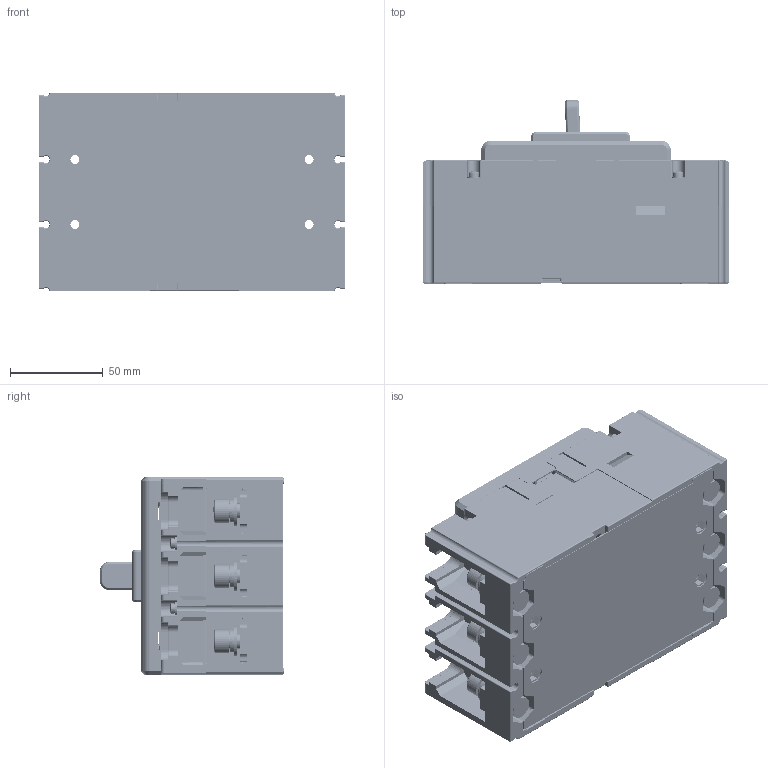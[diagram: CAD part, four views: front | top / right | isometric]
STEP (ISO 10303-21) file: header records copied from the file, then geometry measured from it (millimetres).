
FILE_DESCRIPTION((''),'2;1');
FILE_NAME('CDM6I-250L_3P_160A__ASM','2025-11-04T',('Administrator'),(''),'PRO/ENGINEER BY PARAMETRIC TECHNOLOGY CORPORATION, 2015440','PRO/ENGINEER BY PARAMETRIC TECHNOLOGY CORPORATION, 2015440','');
FILE_SCHEMA(('CONFIG_CONTROL_DESIGN'));
Products named in the file (41): JZ-5024044300_3_1; GB_T809-M3X12_8_1; 5024044300_ASM_2_ASM_1_ASM; 8940007200_8_1; 8550073500_8_1; 5551070200_ASM_4_ASM_1_ASM; 7010100305R01_GB_T823_M3X10_8_1; 7090300201_GB_T93_3_8_1; GB_T97_4_3_8_1; 5850007700_ASM_8_ASM_1_ASM; 160S3P_ASM_5_ASM_1_ASM; 8750030100_5_1; 8751002200_5_1; 8253076600_8_1; 5253029200_ASM_8_ASM_1_ASM; GB_T809-M3X8_8_1; 5315050000_ASM_4_ASM_1_ASM; 8282018100_AF0_8_1; 8253077300_8_1; 5315051200_ASM_4_ASM_1_ASM; 8315095900_8_1; 5315051400_ASM_5_ASM_1_ASM; 7030100225_GB_T9074_4-M3X30_8_1; GB_T70_1-M8X20_8_1; 7090200704_GB_T97_1_8_8_1; 7090370701K_GB_T93_8_8_1; 5850004100_AF0_ASM_9_ASM_1_ASM; 5850004100_AF1_ASM_9_ASM_1_ASM; 5850004100_AF2_ASM_9_ASM_1_ASM; 5850004100_AF3_ASM_9_ASM_1_ASM; 5850004100_AF4_ASM_9_ASM_1_ASM; 5850004100_AF5_ASM_9_ASM_1_ASM; 8742102700_5_1; CDM3V-160S3P_ASM_6_ASM_1_ASM; ZG-5315076300_1; GB_T809-M3X8_1; 5315076300_ASM_1_ASM; ASM0001_ASM_1_ASM; 8551033200; 8585064500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
Assembly tree (106 placements, depth 7):
  CDM6I-250L_3P_160A__ASM
    ASM0001_ASM_1_ASM
      CDM3V-160S3P_ASM_6_ASM_1_ASM
        160S3P_ASM_5_ASM_1_ASM
          5024044300_ASM_2_ASM_1_ASM
            JZ-5024044300_3_1
            GB_T809-M3X12_8_1  x9
          8940007200_8_1  x6
          5551070200_ASM_4_ASM_1_ASM  x3
            8550073500_8_1
          5850007700_ASM_8_ASM_1_ASM  x12
            7010100305R01_GB_T823_M3X10_8_1
            7090300201_GB_T93_3_8_1
            GB_T97_4_3_8_1
        8750030100_5_1  x3
        8751002200_5_1  x3
        5253029200_ASM_8_ASM_1_ASM
          8253076600_8_1
        5315051400_ASM_5_ASM_1_ASM
          5315051200_ASM_4_ASM_1_ASM
            5315050000_ASM_4_ASM_1_ASM
              GB_T809-M3X8_8_1  x4
            8282018100_AF0_8_1
            8253077300_8_1
          8315095900_8_1
          5850007700_ASM_8_ASM_1_ASM  x4
            7010100305R01_GB_T823_M3X10_8_1
            7090300201_GB_T93_3_8_1
            GB_T97_4_3_8_1
        7030100225_GB_T9074_4-M3X30_8_1  x8
        5850004100_AF0_ASM_9_ASM_1_ASM
          GB_T70_1-M8X20_8_1
          7090200704_GB_T97_1_8_8_1
          7090370701K_GB_T93_8_8_1
        5850004100_AF1_ASM_9_ASM_1_ASM
          GB_T70_1-M8X20_8_1
          7090200704_GB_T97_1_8_8_1
          7090370701K_GB_T93_8_8_1
        5850004100_AF2_ASM_9_ASM_1_ASM
          GB_T70_1-M8X20_8_1
          7090200704_GB_T97_1_8_8_1
          7090370701K_GB_T93_8_8_1
        5850004100_AF3_ASM_9_ASM_1_ASM
          GB_T70_1-M8X20_8_1
          7090200704_GB_T97_1_8_8_1
          7090370701K_GB_T93_8_8_1
        5850004100_AF4_ASM_9_ASM_1_ASM
          GB_T70_1-M8X20_8_1
          7090200704_GB_T97_1_8_8_1
          7090370701K_GB_T93_8_8_1
        5850004100_AF5_ASM_9_ASM_1_ASM
          GB_T70_1-M8X20_8_1
          7090200704_GB_T97_1_8_8_1
          7090370701K_GB_T93_8_8_1
        8742102700_5_1
      5315076300_ASM_1_ASM
        ZG-5315076300_1
        GB_T809-M3X8_1  x4
    8551033200  x3
    8585064500  x3
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Bounding box: 165 x 99.35 x 107 mm (x, y, z)
Volume: 482066 mm3; surface area: 341248.9 mm2
Topology: 119 solids, 178 shells, 7899 faces, 20636 edges, 13011 vertices
Faces by surface type: plane 3941, cylinder 2641, torus 520, cone 298, sphere 241, bspline 137, extrusion 121
Entity records: 204986 total; most frequent: CARTESIAN_POINT 51635, ORIENTED_EDGE 32104, DIRECTION 31828, EDGE_CURVE 16072, AXIS2_PLACEMENT_3D 10683, VECTOR 10462, LINE 10341, VERTEX_POINT 10257
